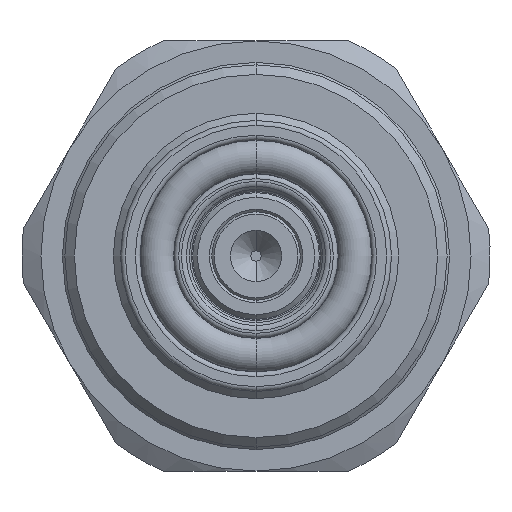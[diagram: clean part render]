
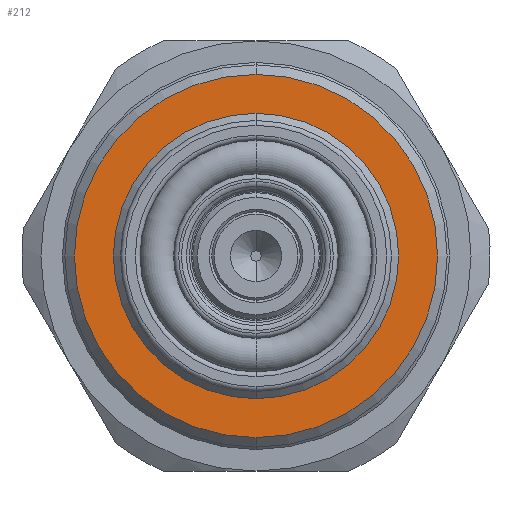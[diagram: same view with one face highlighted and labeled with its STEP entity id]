
A CAD part, left-side view. The second image highlights one B-rep face of the part: STEP entity #212.
In plain terms, the highlighted planar face has unit normal (-1, 0, 0).
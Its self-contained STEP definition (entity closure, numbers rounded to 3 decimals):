
#212 = ADVANCED_FACE ( 'NONE', ( #2558, #2532 ), #6551, .T. ) ;
#339 = EDGE_CURVE ( 'NONE', #1380, #1409, #2789, .T. ) ;
#340 = EDGE_CURVE ( 'NONE', #1409, #1380, #2752, .T. ) ;
#1076 = EDGE_CURVE ( 'NONE', #1371, #1363, #2995, .T. ) ;
#1363 = VERTEX_POINT ( 'NONE', #3867 ) ;
#1371 = VERTEX_POINT ( 'NONE', #3928 ) ;
#1380 = VERTEX_POINT ( 'NONE', #3930 ) ;
#1409 = VERTEX_POINT ( 'NONE', #3903 ) ;
#2067 = AXIS2_PLACEMENT_3D ( 'NONE', #6573, #6560, #6555 ) ;
#2262 = EDGE_LOOP ( 'NONE', ( #4846, #6194 ) ) ;
#2288 = EDGE_LOOP ( 'NONE', ( #4865, #4920 ) ) ;
#2532 = FACE_OUTER_BOUND ( 'NONE', #2262, .T. ) ;
#2558 = FACE_BOUND ( 'NONE', #2288, .T. ) ;
#2752 = CIRCLE ( 'NONE', #3400, 7.6 ) ;
#2789 = CIRCLE ( 'NONE', #3413, 7.6 ) ;
#2995 = CIRCLE ( 'NONE', #3515, 5.969 ) ;
#3400 = AXIS2_PLACEMENT_3D ( 'NONE', #5483, #5485, #5463 ) ;
#3413 = AXIS2_PLACEMENT_3D ( 'NONE', #5474, #5488, #5484 ) ;
#3515 = AXIS2_PLACEMENT_3D ( 'NONE', #5132, #5153, #5133 ) ;
#3687 = AXIS2_PLACEMENT_3D ( 'NONE', #4270, #4307, #4308 ) ;
#3776 = EDGE_CURVE ( 'NONE', #1363, #1371, #4583, .T. ) ;
#3867 = CARTESIAN_POINT ( 'NONE',  ( -1.503, 0., 5.969 ) ) ;
#3903 = CARTESIAN_POINT ( 'NONE',  ( -1.503, 0., 7.6 ) ) ;
#3928 = CARTESIAN_POINT ( 'NONE',  ( -1.503, 0., -5.969 ) ) ;
#3930 = CARTESIAN_POINT ( 'NONE',  ( -1.503, 0., -7.6 ) ) ;
#4270 = CARTESIAN_POINT ( 'NONE',  ( -1.503, 0., 0. ) ) ;
#4307 = DIRECTION ( 'NONE',  ( 1., 0., 0. ) ) ;
#4308 = DIRECTION ( 'NONE',  ( 0., 0., -1. ) ) ;
#4583 = CIRCLE ( 'NONE', #3687, 5.969 ) ;
#4846 = ORIENTED_EDGE ( 'NONE', *, *, #339, .F. ) ;
#4865 = ORIENTED_EDGE ( 'NONE', *, *, #1076, .T. ) ;
#4920 = ORIENTED_EDGE ( 'NONE', *, *, #3776, .T. ) ;
#5132 = CARTESIAN_POINT ( 'NONE',  ( -1.503, 0., 0. ) ) ;
#5133 = DIRECTION ( 'NONE',  ( 0., 0., -1. ) ) ;
#5153 = DIRECTION ( 'NONE',  ( 1., 0., 0. ) ) ;
#5463 = DIRECTION ( 'NONE',  ( 0., 0., -1. ) ) ;
#5474 = CARTESIAN_POINT ( 'NONE',  ( -1.503, 0., 0. ) ) ;
#5483 = CARTESIAN_POINT ( 'NONE',  ( -1.503, 0., 0. ) ) ;
#5484 = DIRECTION ( 'NONE',  ( 0., 0., -1. ) ) ;
#5485 = DIRECTION ( 'NONE',  ( 1., 0., 0. ) ) ;
#5488 = DIRECTION ( 'NONE',  ( 1., 0., 0. ) ) ;
#6194 = ORIENTED_EDGE ( 'NONE', *, *, #340, .F. ) ;
#6551 = PLANE ( 'NONE',  #2067 ) ;
#6555 = DIRECTION ( 'NONE',  ( 0., 0., 1. ) ) ;
#6560 = DIRECTION ( 'NONE',  ( -1., 0., 0. ) ) ;
#6573 = CARTESIAN_POINT ( 'NONE',  ( -1.503, 0., 0. ) ) ;
